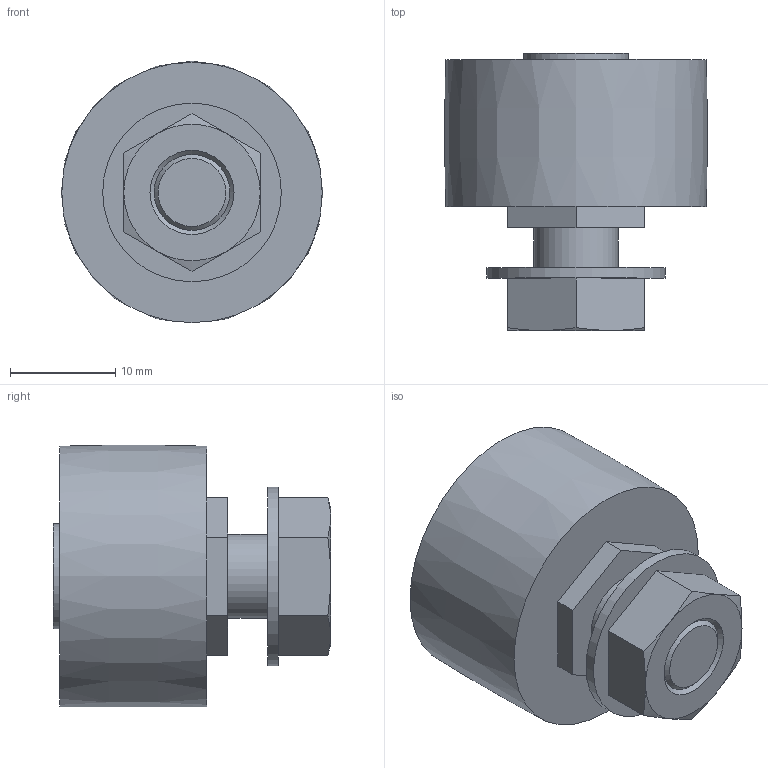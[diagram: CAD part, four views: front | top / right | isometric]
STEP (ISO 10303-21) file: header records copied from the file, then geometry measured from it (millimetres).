
FILE_DESCRIPTION( ( 'STEP AP203' ), '1' );
FILE_NAME( 'p:/temp/worker_105/temp/exporttempdir_7072_571_QW2Ln/format_1/SR25C.stp', '2021-09-29T07:15:36', ( 'License CC BY-ND 4.0' ), ( 'CADENAS' ), ' ', 'PARTsolutions', ' ' );
FILE_SCHEMA( ( 'CONFIG_CONTROL_DESIGN' ) );
Length unit declared in the file: millimetre
Products named in the file (2): SR25C; _SR25C_
Assembly tree (1 placements, depth 2):
  SR25C
    _SR25C_
Bounding box: 24.98 x 26.4 x 24.89 mm (x, y, z)
Volume: 8302.8 mm3; surface area: 2923.3 mm2
Topology: 1 solids, 1 shells, 39 faces, 85 edges, 55 vertices
Faces by surface type: plane 27, cone 8, cylinder 3, bspline 1
Full cylindrical faces by diameter (mm): 8 x1, 10 x1, 17 x1
Entity records: 1126 total; most frequent: CARTESIAN_POINT 238, DIRECTION 162, ORIENTED_EDGE 154, EDGE_CURVE 77, AXIS2_PLACEMENT_3D 57, VERTEX_POINT 53, EDGE_LOOP 52, LINE 48
